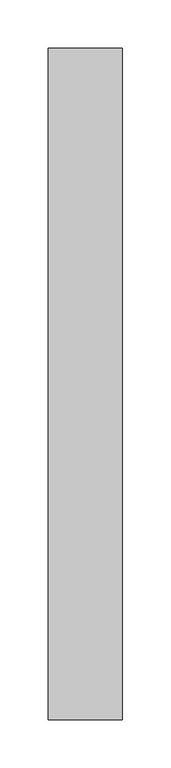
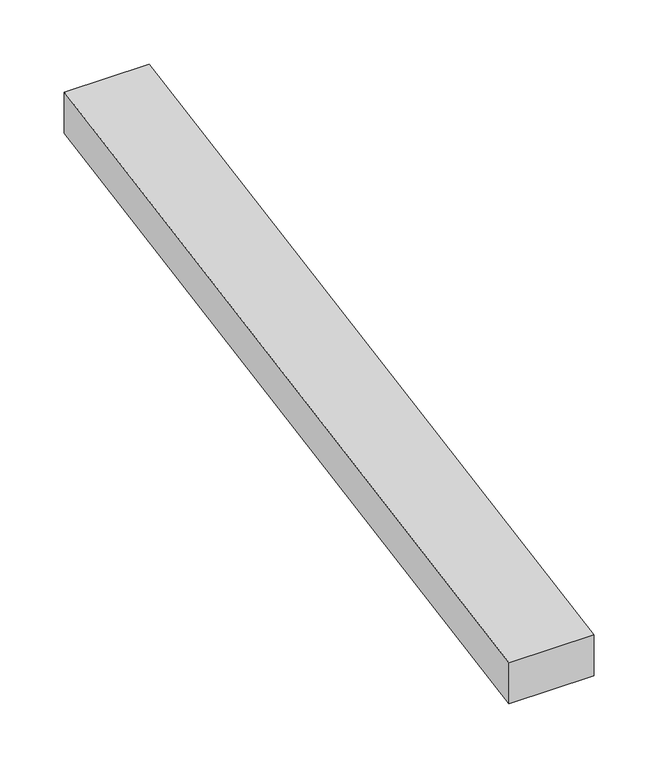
"""IFC4 building model written with IfcOpenShell, lengths in millimetres: proxy geometry, GRADIENT^TABLE 1_OCTAGON LEGS-LEG 3."""

from ifc_helpers import new_model, si_unit, frame, origin, place, context, project, spatial, polyline, outline, extrude, source, transform, mapped, element, save


def generic_models_69e4ea64(model_context):
    return source(origin(), model_context, "Body", "SweptSolid", [
        extrude(outline(polyline([(692.15, -144.0675264), (692.15, -182.7552803), (0.0, -304.8), (0.0, -266.1122461), (692.15, -144.0675264)])), frame((0.0, 0.0, 0.0), z_axis=(1.0, 0.0, 0.0), x_axis=(0.0, 1.0, 0.0)), (0.0, 0.0, 1.0), 76.2),
    ])


if __name__ == "__main__":
    model = new_model("IFC4")
    model_context = context("Model", 3, world=origin())
    ifc_project = project(units=[si_unit("LENGTHUNIT", "METRE", prefix="MILLI")], contexts=[model_context])
    site = spatial("IfcSite", under=ifc_project)
    building = spatial("IfcBuilding", under=site)
    placement = place(None, origin())
    generic_models_shape = generic_models_69e4ea64(model_context)
    element("IfcBuildingElementProxy", 1, Name="GRADIENT^TABLE 1_OCTAGON LEGS-LEG 3", ObjectType="GRADIENT^TABLE 1_OCTAGON LEGS-LEG 3", at=placement, inside=building, context=model_context, shape_type="MappedRepresentation", body=[
        mapped(generic_models_shape, transform((0.0, 0.0, 0.0), x_axis=(1.0, 0.0, 0.0), y_axis=(0.0, 1.0, 0.0), z_axis=(0.0, 0.0, 1.0))),
    ])
    save(model, "model.ifc")
